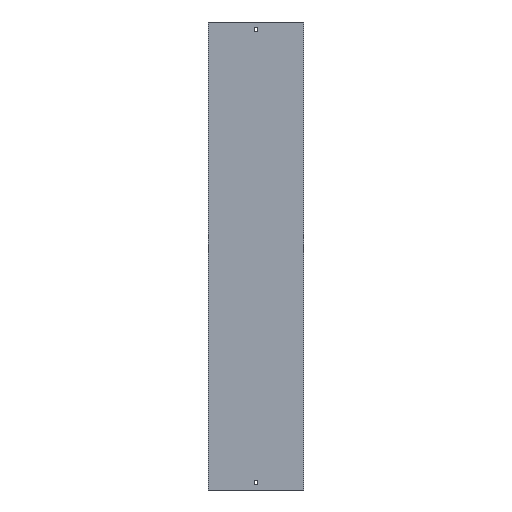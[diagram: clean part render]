
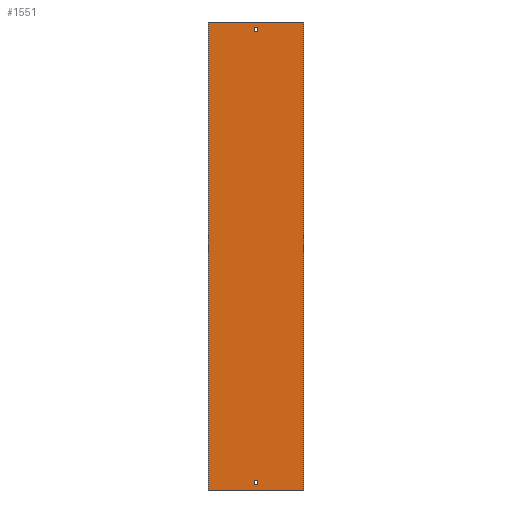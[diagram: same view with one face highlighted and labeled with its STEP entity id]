
A CAD part, front view. The second image highlights one B-rep face of the part: STEP entity #1551.
In plain terms, the highlighted planar face has unit normal (0, -1, 0).
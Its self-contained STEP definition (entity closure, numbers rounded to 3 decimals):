
#15 = LINE ( 'NONE', #525, #918 ) ;
#41 = VERTEX_POINT ( 'NONE', #1105 ) ;
#54 = DIRECTION ( 'NONE',  ( 1., 0., 0. ) ) ;
#83 = CARTESIAN_POINT ( 'NONE',  ( -3.25, 0., 479. ) ) ;
#86 = VECTOR ( 'NONE', #1326, 1000. ) ;
#88 = VECTOR ( 'NONE', #878, 1000. ) ;
#103 = VERTEX_POINT ( 'NONE', #307 ) ;
#133 = CARTESIAN_POINT ( 'NONE',  ( 3.25, 0., -488. ) ) ;
#138 = CARTESIAN_POINT ( 'NONE',  ( -3.25, 0., -479. ) ) ;
#144 = LINE ( 'NONE', #764, #646 ) ;
#182 = DIRECTION ( 'NONE',  ( -1., 0., 0. ) ) ;
#195 = ORIENTED_EDGE ( 'NONE', *, *, #424, .F. ) ;
#236 = CARTESIAN_POINT ( 'NONE',  ( -3.25, 0., -488. ) ) ;
#238 = VERTEX_POINT ( 'NONE', #1388 ) ;
#273 = CARTESIAN_POINT ( 'NONE',  ( -102., 0., 500. ) ) ;
#275 = CARTESIAN_POINT ( 'NONE',  ( 102., 0., 500. ) ) ;
#292 = EDGE_CURVE ( 'NONE', #851, #1294, #144, .T. ) ;
#307 = CARTESIAN_POINT ( 'NONE',  ( -3.25, 0., 479. ) ) ;
#354 = ORIENTED_EDGE ( 'NONE', *, *, #933, .T. ) ;
#360 = CARTESIAN_POINT ( 'NONE',  ( -3.25, 0., 488. ) ) ;
#384 = VERTEX_POINT ( 'NONE', #138 ) ;
#395 = FACE_BOUND ( 'NONE', #535, .T. ) ;
#422 = CARTESIAN_POINT ( 'NONE',  ( -3.25, 0., 488. ) ) ;
#423 = ORIENTED_EDGE ( 'NONE', *, *, #1212, .F. ) ;
#424 = EDGE_CURVE ( 'NONE', #1151, #1379, #1457, .T. ) ;
#443 = ORIENTED_EDGE ( 'NONE', *, *, #1350, .T. ) ;
#461 = VECTOR ( 'NONE', #54, 1000. ) ;
#505 = ORIENTED_EDGE ( 'NONE', *, *, #720, .T. ) ;
#525 = CARTESIAN_POINT ( 'NONE',  ( -3.25, 0., -479. ) ) ;
#532 = DIRECTION ( 'NONE',  ( 1., 0., 0. ) ) ;
#535 = EDGE_LOOP ( 'NONE', ( #423, #1121, #1419, #195 ) ) ;
#638 = LINE ( 'NONE', #360, #1410 ) ;
#646 = VECTOR ( 'NONE', #1420, 1000. ) ;
#662 = LINE ( 'NONE', #133, #1462 ) ;
#673 = EDGE_CURVE ( 'NONE', #384, #41, #15, .T. ) ;
#686 = EDGE_CURVE ( 'NONE', #1085, #1294, #1292, .T. ) ;
#696 = LINE ( 'NONE', #83, #461 ) ;
#719 = VERTEX_POINT ( 'NONE', #422 ) ;
#720 = EDGE_CURVE ( 'NONE', #41, #1221, #662, .T. ) ;
#738 = ORIENTED_EDGE ( 'NONE', *, *, #1452, .F. ) ;
#743 = CARTESIAN_POINT ( 'NONE',  ( -3.25, 0., -488. ) ) ;
#745 = LINE ( 'NONE', #236, #1546 ) ;
#747 = ORIENTED_EDGE ( 'NONE', *, *, #1637, .T. ) ;
#764 = CARTESIAN_POINT ( 'NONE',  ( -102., 0., -500. ) ) ;
#772 = CARTESIAN_POINT ( 'NONE',  ( -102., 0., 500. ) ) ;
#790 = LINE ( 'NONE', #772, #1385 ) ;
#817 = CARTESIAN_POINT ( 'NONE',  ( 102., 0., -500. ) ) ;
#822 = DIRECTION ( 'NONE',  ( 0., 0., 1. ) ) ;
#832 = EDGE_CURVE ( 'NONE', #1379, #719, #1343, .T. ) ;
#851 = VERTEX_POINT ( 'NONE', #1638 ) ;
#860 = DIRECTION ( 'NONE',  ( -1., 0., 0. ) ) ;
#867 = VECTOR ( 'NONE', #822, 1000. ) ;
#878 = DIRECTION ( 'NONE',  ( 0., 0., 1. ) ) ;
#899 = FACE_OUTER_BOUND ( 'NONE', #1271, .T. ) ;
#914 = FACE_BOUND ( 'NONE', #1646, .T. ) ;
#918 = VECTOR ( 'NONE', #532, 1000. ) ;
#933 = EDGE_CURVE ( 'NONE', #1221, #1373, #745, .T. ) ;
#965 = LINE ( 'NONE', #1229, #1631 ) ;
#977 = AXIS2_PLACEMENT_3D ( 'NONE', #273, #1051, #1572 ) ;
#991 = EDGE_CURVE ( 'NONE', #719, #103, #638, .T. ) ;
#1003 = VECTOR ( 'NONE', #182, 1000. ) ;
#1018 = CARTESIAN_POINT ( 'NONE',  ( 3.25, 0., 488. ) ) ;
#1051 = DIRECTION ( 'NONE',  ( 0., 1., 0. ) ) ;
#1085 = VERTEX_POINT ( 'NONE', #275 ) ;
#1105 = CARTESIAN_POINT ( 'NONE',  ( 3.25, 0., -479. ) ) ;
#1106 = CARTESIAN_POINT ( 'NONE',  ( 3.25, 0., -488. ) ) ;
#1121 = ORIENTED_EDGE ( 'NONE', *, *, #991, .F. ) ;
#1148 = LINE ( 'NONE', #1259, #88 ) ;
#1151 = VERTEX_POINT ( 'NONE', #1582 ) ;
#1156 = DIRECTION ( 'NONE',  ( 0., 0., -1. ) ) ;
#1168 = ORIENTED_EDGE ( 'NONE', *, *, #686, .F. ) ;
#1212 = EDGE_CURVE ( 'NONE', #103, #1151, #696, .T. ) ;
#1221 = VERTEX_POINT ( 'NONE', #1106 ) ;
#1229 = CARTESIAN_POINT ( 'NONE',  ( -102., 0., 500. ) ) ;
#1234 = ORIENTED_EDGE ( 'NONE', *, *, #673, .T. ) ;
#1259 = CARTESIAN_POINT ( 'NONE',  ( -3.25, 0., -488. ) ) ;
#1271 = EDGE_LOOP ( 'NONE', ( #1559, #1168, #738, #747 ) ) ;
#1292 = LINE ( 'NONE', #1565, #86 ) ;
#1294 = VERTEX_POINT ( 'NONE', #817 ) ;
#1307 = PLANE ( 'NONE',  #977 ) ;
#1326 = DIRECTION ( 'NONE',  ( 0., 0., -1. ) ) ;
#1332 = DIRECTION ( 'NONE',  ( 0., 0., -1. ) ) ;
#1343 = LINE ( 'NONE', #1363, #1003 ) ;
#1350 = EDGE_CURVE ( 'NONE', #1373, #384, #1148, .T. ) ;
#1359 = CARTESIAN_POINT ( 'NONE',  ( 3.25, 0., 488. ) ) ;
#1363 = CARTESIAN_POINT ( 'NONE',  ( -3.25, 0., 488. ) ) ;
#1373 = VERTEX_POINT ( 'NONE', #743 ) ;
#1379 = VERTEX_POINT ( 'NONE', #1018 ) ;
#1385 = VECTOR ( 'NONE', #1428, 1000. ) ;
#1388 = CARTESIAN_POINT ( 'NONE',  ( -102., 0., 500. ) ) ;
#1410 = VECTOR ( 'NONE', #1156, 1000. ) ;
#1419 = ORIENTED_EDGE ( 'NONE', *, *, #832, .F. ) ;
#1420 = DIRECTION ( 'NONE',  ( 1., 0., 0. ) ) ;
#1428 = DIRECTION ( 'NONE',  ( 1., 0., 0. ) ) ;
#1452 = EDGE_CURVE ( 'NONE', #238, #1085, #790, .T. ) ;
#1457 = LINE ( 'NONE', #1359, #867 ) ;
#1462 = VECTOR ( 'NONE', #1576, 1000. ) ;
#1546 = VECTOR ( 'NONE', #860, 1000. ) ;
#1551 = ADVANCED_FACE ( 'NONE', ( #899, #395, #914 ), #1307, .F. ) ;
#1559 = ORIENTED_EDGE ( 'NONE', *, *, #292, .T. ) ;
#1565 = CARTESIAN_POINT ( 'NONE',  ( 102., 0., 500. ) ) ;
#1572 = DIRECTION ( 'NONE',  ( -1., 0., 0. ) ) ;
#1576 = DIRECTION ( 'NONE',  ( 0., 0., -1. ) ) ;
#1582 = CARTESIAN_POINT ( 'NONE',  ( 3.25, 0., 479. ) ) ;
#1631 = VECTOR ( 'NONE', #1332, 1000. ) ;
#1637 = EDGE_CURVE ( 'NONE', #238, #851, #965, .T. ) ;
#1638 = CARTESIAN_POINT ( 'NONE',  ( -102., 0., -500. ) ) ;
#1646 = EDGE_LOOP ( 'NONE', ( #443, #1234, #505, #354 ) ) ;
